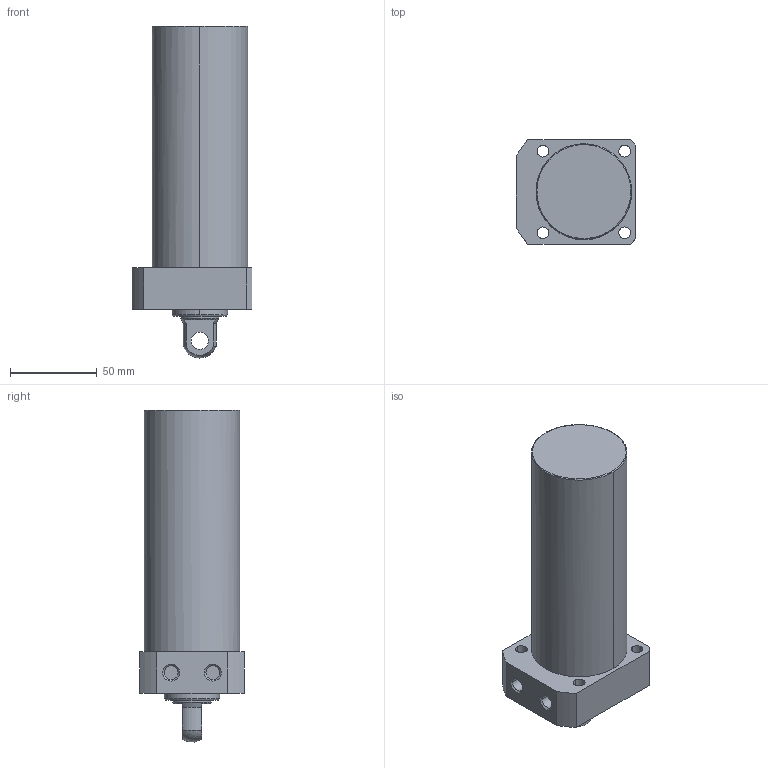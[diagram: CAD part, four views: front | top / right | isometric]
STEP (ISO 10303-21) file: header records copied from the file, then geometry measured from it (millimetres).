
FILE_DESCRIPTION((' '),'2;1');
FILE_NAME( 'TLLR-055CP-110.STEP.stp', '2025-10-24T16:34:51', (' '), ('--- Datakit www.datakit.com---'), ' Datakit CrossCadWare V2024.1 Dec 21 2023', 'Mastercam 2025', ' ');
FILE_SCHEMA(('AUTOMOTIVE_DESIGN { 1 0 10303 214 1 1 1 1 }'));
Length unit declared in the file: millimetre
Products named in the file (1): TLLR-055CP-110
Bounding box: 69 x 60 x 190.93 mm (x, y, z)
Volume: 429764.2 mm3; surface area: 42235.6 mm2
Topology: 1 solids, 1 shells, 57 faces, 164 edges, 116 vertices
Faces by surface type: cylinder 28, plane 18, cone 8, torus 2, sphere 1
Entity records: 2006 total; most frequent: DIRECTION 378, CARTESIAN_POINT 350, ORIENTED_EDGE 328, EDGE_CURVE 164, AXIS2_PLACEMENT_3D 160, VERTEX_POINT 116, CIRCLE 102, EDGE_LOOP 74
